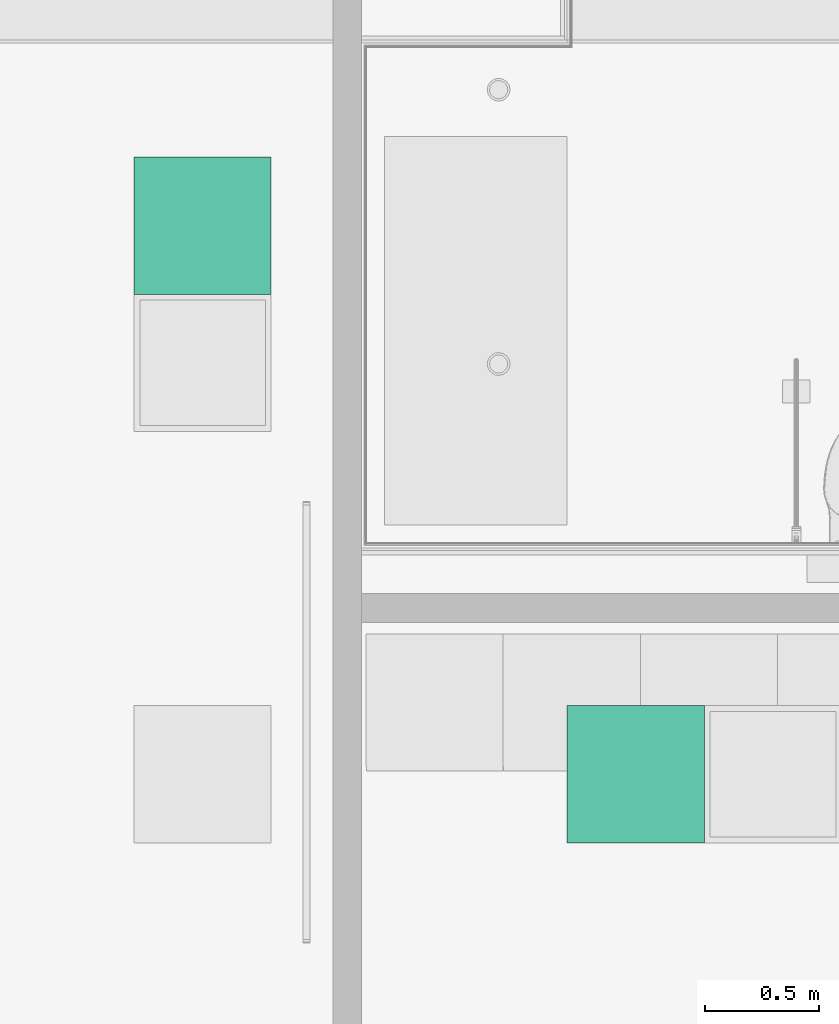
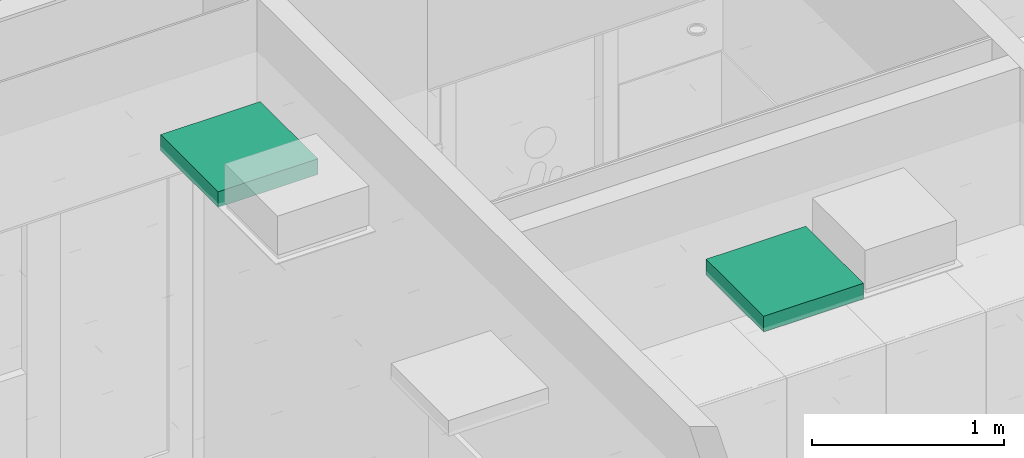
# One storey, part 202 of 347: 2 flow terminals.
"""IFC2X3 building model written with IfcOpenShell, lengths in millimetres."""

import ifcopenshell
import ifcopenshell.guid

model = None  # the IFC model being written
_history = None  # IfcOwnerHistory: only IFC2X3 demands one
_inside = {}  # id of a spatial element -> (the spatial element, [elements in it])
_under = {}  # id of a project, library or spatial element -> (it, [spatial elements below it])
_declared = {}  # id of a project -> (the project, [libraries it declares])
_typed = {}  # id of a type object -> (the type object, [elements of that type])
_made_of = {}  # id of a material, layer set ... -> (it, [elements and type objects made of it])


def new_model(schema):
    """Start an empty IFC model of exactly this schema.

    Asked for "IFC4X3", IfcOpenShell would pick the latest addendum, in which some entities
    have other attributes; the version numbers below select the first issue.
    IFC2X3 requires an IfcOwnerHistory on every rooted entity: one is made here for all.
    """
    global model, _history
    if schema == "IFC4X3":
        model = ifcopenshell.file(schema_version=(4, 3, 0, 0))
    else:
        model = ifcopenshell.file(schema=schema)
    _inside.clear()
    _under.clear()
    _declared.clear()
    _typed.clear()
    _made_of.clear()
    _history = None
    if model.schema == "IFC2X3":
        org = make("IfcOrganization", Name="unknown")
        user = make(
            "IfcPersonAndOrganization",
            ThePerson=make("IfcPerson", FamilyName="unknown"),
            TheOrganization=org,
        )
        app = make(
            "IfcApplication",
            ApplicationDeveloper=org,
            Version="unknown",
            ApplicationFullName="unknown",
            ApplicationIdentifier="unknown",
        )
        _history = make(
            "IfcOwnerHistory",
            OwningUser=user,
            OwningApplication=app,
            ChangeAction="ADDED",
            CreationDate=0,
        )
    return model


def make(cls, **values):
    """One entity of the class cls with the attributes given. An attribute that is None is left unset."""
    return model.create_entity(
        cls, **{name: value for name, value in values.items() if value is not None}
    )


def entity(cls, *values):
    """Any entity or typed value of the class cls, its attributes in the order of the schema. None: left unset."""
    e = model.create_entity(cls)
    for i, value in enumerate(values):
        if value is not None:
            e[i] = value
    return e


def rooted(cls, **values):
    """An entity with a GlobalId (a new one), such as an element, a storey or a relation."""
    return make(cls, GlobalId=ifcopenshell.guid.new(), OwnerHistory=_history, **values)


def si_unit(unit_type, name, prefix=None):
    """IfcSIUnit, for example si_unit("LENGTHUNIT", "METRE", prefix="MILLI")."""
    return make("IfcSIUnit", UnitType=unit_type, Prefix=prefix, Name=name)


def converted_unit(unit_type, name, factor, base, dimensions=None, offset=None):
    """IfcConversionBasedUnit, such as the inch: factor (a typed value) times the base unit."""
    return make(
        "IfcConversionBasedUnit"
        if offset is None
        else "IfcConversionBasedUnitWithOffset",
        ConversionOffset=offset,
        Dimensions=None
        if dimensions is None
        else entity("IfcDimensionalExponents", *dimensions),
        UnitType=unit_type,
        Name=name,
        ConversionFactor=make(
            "IfcMeasureWithUnit", ValueComponent=factor, UnitComponent=base
        ),
    )


def derived_unit(unit_type, elements):
    """IfcDerivedUnit: a product of units, each with its exponent."""
    return make(
        "IfcDerivedUnit",
        Elements=[
            make("IfcDerivedUnitElement", Unit=unit, Exponent=power)
            for unit, power in elements
        ],
        UnitType=unit_type,
    )


def money_unit(currency):
    """IfcMonetaryUnit."""
    return make("IfcMonetaryUnit", Currency=currency)


def assignment(units):
    """IfcUnitAssignment: the units of a project."""
    return None if units is None else make("IfcUnitAssignment", Units=units)


def point(xyz):
    """IfcCartesianPoint."""
    return None if xyz is None else make("IfcCartesianPoint", Coordinates=xyz)


def direction(xyz):
    """IfcDirection."""
    return None if xyz is None else make("IfcDirection", DirectionRatios=xyz)


def frame(location, z_axis=None, x_axis=None):
    """IfcAxis2Placement3D, a coordinate frame: its origin and axes. An axis left out is left unset."""
    return make(
        "IfcAxis2Placement3D",
        Location=point(location),
        Axis=direction(z_axis),
        RefDirection=direction(x_axis),
    )


def origin_with_axes():
    """The frame at (0, 0, 0) with the z axis (0, 0, 1) and the x axis (1, 0, 0) written out."""
    return frame((0.0, 0.0, 0.0), z_axis=(0.0, 0.0, 1.0), x_axis=(1.0, 0.0, 0.0))


def place(relative_to, where):
    """IfcLocalPlacement: puts the frame where relative to a parent placement (None: the world)."""
    return make(
        "IfcLocalPlacement", PlacementRelTo=relative_to, RelativePlacement=where
    )


def context(
    kind, dimensions, precision=None, world=None, true_north=None, identifier=None
):
    """IfcGeometricRepresentationContext, for example the 3D "Model" context."""
    return make(
        "IfcGeometricRepresentationContext",
        ContextIdentifier=identifier,
        ContextType=kind,
        CoordinateSpaceDimension=dimensions,
        Precision=precision,
        WorldCoordinateSystem=world,
        TrueNorth=true_north,
    )


def subcontext(parent, identifier, kind, view, scale=None):
    """IfcGeometricRepresentationSubContext, for example "Body" below "Model"."""
    return make(
        "IfcGeometricRepresentationSubContext",
        ContextIdentifier=identifier,
        ContextType=kind,
        ParentContext=parent,
        TargetScale=scale,
        TargetView=view,
    )


def project(units=None, contexts=None):
    """IfcProject with its units and contexts."""
    return rooted(
        "IfcProject",
        Name="project",
        RepresentationContexts=contexts,
        UnitsInContext=assignment(units),
    )


def spatial(cls, under=None, at=None, **own):
    """A site, building, storey or space (cls), placed at a placement, below another one or the project."""
    s = rooted(cls, ObjectPlacement=at, **own)
    if under is not None:
        _under.setdefault(under.id(), (under, []))[1].append(s)
    return s


def faces_of(points, faces, orient=None, outer=None):
    """IfcFace entities. A face is a list of loops; a loop is a list of indices into points, from 0.

    orient and outer hold one flag for each loop. By default every Orientation is true, the
    first loop of a face is its IfcFaceOuterBound and the others are IfcFaceBound.
    """
    made = []
    for i, loops in enumerate(faces):
        bounds = []
        for j, loop in enumerate(loops):
            is_outer = j == 0 if outer is None else outer[i][j]
            bounds.append(
                make(
                    "IfcFaceOuterBound" if is_outer else "IfcFaceBound",
                    Bound=make("IfcPolyLoop", Polygon=[points[k] for k in loop]),
                    Orientation=True if orient is None else orient[i][j],
                )
            )
        made.append(make("IfcFace", Bounds=bounds))
    return made


def open_shell(faces, orient=None, outer=None):
    """The faces of one IfcOpenShell. surface_model builds it on its shared points."""
    return ("IfcOpenShell", faces, orient, outer)


def faceted_brep(points, faces, orient=None, outer=None, voids=None):
    """IfcFacetedBrep: a solid bounded by flat faces; with voids (closed shells), ...WithVoids."""
    shared = [point(p) for p in points]
    hull = make("IfcClosedShell", CfsFaces=faces_of(shared, faces, orient, outer))
    if voids is None:
        return make("IfcFacetedBrep", Outer=hull)
    return make(
        "IfcFacetedBrepWithVoids",
        Outer=hull,
        Voids=[
            make(cls, CfsFaces=faces_of(shared, fs, o, b)) for cls, fs, o, b in voids
        ],
    )


def surface_model(cls, points, shells):
    """IfcFaceBasedSurfaceModel or IfcShellBasedSurfaceModel (cls): surfaces that need not close."""
    shared = [point(p) for p in points]
    made = [make(c, CfsFaces=faces_of(shared, fs, o, b)) for c, fs, o, b in shells]
    if cls == "IfcFaceBasedSurfaceModel":
        return make(cls, FbsmFaces=made)
    return make(cls, SbsmBoundary=made)


def shape(context_of_items, identifier, shape_type, items):
    """IfcShapeRepresentation: the items that make up one representation, for example the "Body"."""
    return make(
        "IfcShapeRepresentation",
        ContextOfItems=context_of_items,
        RepresentationIdentifier=identifier,
        RepresentationType=shape_type,
        Items=items,
    )


def source(mapping_origin, context_of_items, identifier, shape_type, items):
    """IfcRepresentationMap: a shape defined once, which mapped items show again and again."""
    return make(
        "IfcRepresentationMap",
        MappingOrigin=mapping_origin,
        MappedRepresentation=shape(context_of_items, identifier, shape_type, items),
    )


def transform(
    local_origin,
    x_axis=None,
    y_axis=None,
    z_axis=None,
    scale=None,
    scale2=None,
    scale3=None,
    uniform=True,
):
    """IfcCartesianTransformationOperator3D, or its non-uniform kind. x_axis, y_axis, z_axis: its Axis1, 2, 3."""
    if uniform:
        return make(
            "IfcCartesianTransformationOperator3D",
            Axis1=direction(x_axis),
            Axis2=direction(y_axis),
            LocalOrigin=point(local_origin),
            Scale=scale,
            Axis3=direction(z_axis),
        )
    return make(
        "IfcCartesianTransformationOperator3DnonUniform",
        Axis1=direction(x_axis),
        Axis2=direction(y_axis),
        LocalOrigin=point(local_origin),
        Scale=scale,
        Axis3=direction(z_axis),
        Scale2=scale2,
        Scale3=scale3,
    )


def mapped(mapping_source, mapping_target):
    """IfcMappedItem: shows the shape of a source again, moved by a transform."""
    return make(
        "IfcMappedItem", MappingSource=mapping_source, MappingTarget=mapping_target
    )


def made_of(thing, what):
    """Note that an element or type object is made of a material, layer set ...; save() writes the relation."""
    if what is not None:
        _made_of.setdefault(what.id(), (what, []))[1].append(thing)
    return thing


def type_object(cls, material=None, **own):
    """A type object (cls), such as IfcWallType, which elements share."""
    return made_of(rooted(cls, **own), material)


def type_shapes(of_type, sources):
    """Give a type object the sources (RepresentationMaps) that its elements show as mapped items."""
    of_type.RepresentationMaps = sources


def element(
    cls,
    number,
    at=None,
    inside=None,
    cuts=None,
    type_object=None,
    material=None,
    context=None,
    identifier="Body",
    shape_type=None,
    held_by="IfcProductDefinitionShape",
    body=None,
    shapes=None,
    **own,
):
    """One element of the class cls, such as IfcWall. Its Tag is "e" and its number.

    at: its placement. inside: the storey or other place that contains it. cuts: it is an
    opening in that element (IfcRelVoidsElement). A single representation is given by context,
    identifier, shape_type and body (its items); several are given by shapes. held_by: the class
    of the entity that holds the representations. save() writes the other relations.
    """
    e = rooted(cls, Tag="e%d" % number, ObjectPlacement=at, **own)
    if body is not None:
        shapes = [shape(context, identifier, shape_type, body)]
    if shapes is not None:
        e.Representation = make(held_by, Representations=shapes)
    if inside is not None:
        _inside.setdefault(inside.id(), (inside, []))[1].append(e)
    if cuts is not None:
        rooted(
            "IfcRelVoidsElement", RelatingBuildingElement=cuts, RelatedOpeningElement=e
        )
    if type_object is not None:
        _typed.setdefault(type_object.id(), (type_object, []))[1].append(e)
    return made_of(e, material)


def aggregate(whole, parts):
    """IfcRelAggregates: a whole, such as a stair, and the parts it consists of."""
    return rooted("IfcRelAggregates", RelatingObject=whole, RelatedObjects=parts)


def save(model, path):
    """Write the relations noted so far, then the file.

    IfcRelAggregates (storeys below a building ...), IfcRelContainedInSpatialStructure (elements
    in a storey), IfcRelDefinesByType, IfcRelAssociatesMaterial and IfcRelDeclares: one each for
    every whole, place, type object, material and project.
    """
    for whole, parts in _under.values():
        aggregate(whole, parts)
    for where, things in _inside.values():
        rooted(
            "IfcRelContainedInSpatialStructure",
            RelatedElements=things,
            RelatingStructure=where,
        )
    for kind, things in _typed.values():
        rooted("IfcRelDefinesByType", RelatedObjects=things, RelatingType=kind)
    for what, things in _made_of.values():
        rooted("IfcRelAssociatesMaterial", RelatedObjects=things, RelatingMaterial=what)
    for by, libraries in _declared.values():
        rooted("IfcRelDeclares", RelatingContext=by, RelatedDefinitions=libraries)
    model.write(path)


model = new_model("IFC2X3")

# Units and contexts
model_context = context("Model", 3, precision=0.01, world=origin_with_axes(), true_north=direction((0.0, 1.0)))
plan_context = context("Plan", 3, precision=0.01, world=origin_with_axes(), true_north=direction((0.0, 1.0)))
body_context = subcontext(model_context, "Body", "Model", "MODEL_VIEW")
ifc_project = project(units=[si_unit("LENGTHUNIT", "METRE", prefix="MILLI"), si_unit("AREAUNIT", "SQUARE_METRE"), si_unit("VOLUMEUNIT", "CUBIC_METRE"), converted_unit("PLANEANGLEUNIT", "DEGREE", entity("IfcPlaneAngleMeasure", 0.0174532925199), si_unit("PLANEANGLEUNIT", "RADIAN"), dimensions=[0, 0, 0, 0, 0, 0, 0]), money_unit("EUR"), converted_unit("TIMEUNIT", "Year", entity("IfcTimeMeasure", 31556926.0), si_unit("TIMEUNIT", "SECOND"), dimensions=[0, 0, 1, 0, 0, 0, 0]), si_unit("MASSUNIT", "GRAM", prefix="KILO"), si_unit("THERMODYNAMICTEMPERATUREUNIT", "DEGREE_CELSIUS"), si_unit("LUMINOUSINTENSITYUNIT", "LUMEN"), si_unit("ENERGYUNIT", "JOULE", prefix="MEGA"), derived_unit("THERMALCONDUCTANCEUNIT", [(si_unit("POWERUNIT", "WATT"), 1), (si_unit("LENGTHUNIT", "METRE"), -1), (si_unit("THERMODYNAMICTEMPERATUREUNIT", "KELVIN"), -1)]), derived_unit("SPECIFICHEATCAPACITYUNIT", [(si_unit("ENERGYUNIT", "JOULE"), 1), (si_unit("MASSUNIT", "GRAM", prefix="KILO"), -1), (si_unit("THERMODYNAMICTEMPERATUREUNIT", "KELVIN"), -1)]), derived_unit("MASSDENSITYUNIT", [(si_unit("MASSUNIT", "GRAM", prefix="KILO"), 1), (si_unit("VOLUMEUNIT", "CUBIC_METRE"), -1)])], contexts=[model_context, plan_context])

# Site, building, storey
site_placement = place(None, origin_with_axes())
site = spatial("IfcSite", under=ifc_project, at=site_placement, Name="Site", CompositionType="ELEMENT")
building_placement = place(site_placement, origin_with_axes())
building = spatial("IfcBuilding", under=site, at=building_placement, Name="Naam gebouw", CompositionType="ELEMENT")
storey_placement = place(building_placement, origin_with_axes())
storey = spatial("IfcBuildingStorey", under=building, at=storey_placement, Name="begane grond", CompositionType="ELEMENT", Elevation=0.0)

# Flow terminals
lamp_type = type_object("IfcLampType", Name="TL plafond 25", PredefinedType="NOTDEFINED")
shared_shape = source(origin_with_axes(), body_context, "Body", "SurfaceModel", [
    faceted_brep([(0.0, 0.0, -100.0), (600.0, 0.0, -100.0), (600.0, 0.0, 0.0), (0.0, 0.0, 0.0), (0.0, 600.0, -100.0), (600.0, 600.0, -100.0), (40.0, 40.0, -100.0), (560.0, 40.0, -100.0), (560.0, 560.0, -100.0), (40.0, 560.0, -100.0), (600.0, 600.0, 0.0), (0.0, 600.0, 0.0), (40.0, 40.0, 0.0), (40.0, 560.0, 0.0), (560.0, 560.0, 0.0), (560.0, 40.0, 0.0)], [[[0, 1, 2, 3]], [[0, 4, 5, 1], [6, 7, 8, 9]], [[1, 5, 10, 2]], [[3, 2, 10, 11], [12, 13, 14, 15]], [[4, 0, 3, 11]], [[5, 4, 11, 10]], [[7, 6, 12, 15]], [[8, 7, 15, 14]], [[9, 8, 14, 13]], [[6, 9, 13, 12]]]),
    faceted_brep([(40.0, 40.0, -16.3333333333), (560.0, 40.0, -16.3333333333), (560.0, 40.0, 0.0), (40.0, 40.0, 0.0), (40.0, 560.0, -16.3333333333), (560.0, 560.0, -16.3333333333), (560.0, 560.0, 0.0), (40.0, 560.0, 0.0)], [[[0, 1, 2, 3]], [[0, 4, 5, 1]], [[1, 5, 6, 2]], [[3, 2, 6, 7]], [[4, 0, 3, 7]], [[5, 4, 7, 6]]]),
    surface_model("IfcShellBasedSurfaceModel", [(559.0, 41.0, -100.0), (40.0, 41.0, -100.0), (40.0, 559.0, -100.0), (559.0, 559.0, -100.0)], [open_shell([[[0, 1, 2, 3]]])]),
    faceted_brep([(40.0, 40.0, -100.0), (560.0, 40.0, -100.0), (560.0, 40.0, -60.0), (40.0, 40.0, -60.0), (40.0, 560.0, -100.0), (560.0, 560.0, -100.0), (41.0, 41.0, -100.0), (559.0, 41.0, -100.0), (559.0, 559.0, -100.0), (41.0, 559.0, -100.0), (560.0, 560.0, -60.0), (40.0, 560.0, -60.0), (41.0, 41.0, -60.0), (41.0, 559.0, -60.0), (559.0, 559.0, -60.0), (559.0, 41.0, -60.0)], [[[0, 1, 2, 3]], [[0, 4, 5, 1], [6, 7, 8, 9]], [[1, 5, 10, 2]], [[3, 2, 10, 11], [12, 13, 14, 15]], [[4, 0, 3, 11]], [[5, 4, 11, 10]], [[7, 6, 12, 15]], [[8, 7, 15, 14]], [[9, 8, 14, 13]], [[6, 9, 13, 12]]]),
    faceted_brep([(40.0, 144.0, -48.3333333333), (40.0, 149.740251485, -47.191526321), (560.0, 149.740251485, -47.191526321), (560.0, 144.0, -48.3333333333), (40.0, 138.259748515, -47.191526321), (40.0, 133.393398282, -43.9399350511), (40.0, 130.141807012, -39.0735848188), (40.0, 129.0, -33.3333333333), (40.0, 130.141807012, -27.5930818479), (40.0, 133.393398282, -22.7267316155), (40.0, 138.259748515, -19.4751403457), (40.0, 144.0, -18.3333333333), (40.0, 149.740251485, -19.4751403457), (40.0, 154.606601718, -22.7267316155), (40.0, 157.858192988, -27.5930818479), (40.0, 159.0, -33.3333333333), (40.0, 157.858192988, -39.0735848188), (40.0, 154.606601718, -43.9399350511), (40.0, 144.0, -46.3333333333), (40.0, 148.974884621, -45.343767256), (40.0, 153.192388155, -42.5257214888), (40.0, 156.010433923, -38.3082179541), (40.0, 157.0, -33.3333333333), (40.0, 156.010433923, -28.3584487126), (40.0, 153.192388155, -24.1409451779), (40.0, 148.974884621, -21.3228994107), (40.0, 144.0, -20.3333333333), (40.0, 139.025115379, -21.3228994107), (40.0, 134.807611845, -24.1409451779), (40.0, 131.989566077, -28.3584487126), (40.0, 131.0, -33.3333333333), (40.0, 131.989566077, -38.3082179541), (40.0, 134.807611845, -42.5257214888), (40.0, 139.025115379, -45.343767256), (560.0, 154.606601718, -43.9399350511), (560.0, 157.858192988, -39.0735848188), (560.0, 159.0, -33.3333333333), (560.0, 157.858192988, -27.5930818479), (560.0, 154.606601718, -22.7267316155), (560.0, 149.740251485, -19.4751403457), (560.0, 144.0, -18.3333333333), (560.0, 138.259748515, -19.4751403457), (560.0, 133.393398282, -22.7267316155), (560.0, 130.141807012, -27.5930818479), (560.0, 129.0, -33.3333333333), (560.0, 130.141807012, -39.0735848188), (560.0, 133.393398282, -43.9399350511), (560.0, 138.259748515, -47.191526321), (560.0, 144.0, -46.3333333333), (560.0, 139.025115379, -45.343767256), (560.0, 134.807611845, -42.5257214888), (560.0, 131.989566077, -38.3082179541), (560.0, 131.0, -33.3333333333), (560.0, 131.989566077, -28.3584487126), (560.0, 134.807611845, -24.1409451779), (560.0, 139.025115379, -21.3228994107), (560.0, 144.0, -20.3333333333), (560.0, 148.974884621, -21.3228994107), (560.0, 153.192388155, -24.1409451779), (560.0, 156.010433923, -28.3584487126), (560.0, 157.0, -33.3333333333), (560.0, 156.010433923, -38.3082179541), (560.0, 153.192388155, -42.5257214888), (560.0, 148.974884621, -45.343767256)], [[[0, 1, 2, 3]], [[0, 4, 5, 6, 7, 8, 9, 10, 11, 12, 13, 14, 15, 16, 17, 1], [18, 19, 20, 21, 22, 23, 24, 25, 26, 27, 28, 29, 30, 31, 32, 33]], [[1, 17, 34, 2]], [[3, 2, 34, 35, 36, 37, 38, 39, 40, 41, 42, 43, 44, 45, 46, 47], [48, 49, 50, 51, 52, 53, 54, 55, 56, 57, 58, 59, 60, 61, 62, 63]], [[4, 0, 3, 47]], [[5, 4, 47, 46]], [[6, 5, 46, 45]], [[7, 6, 45, 44]], [[8, 7, 44, 43]], [[9, 8, 43, 42]], [[10, 9, 42, 41]], [[11, 10, 41, 40]], [[12, 11, 40, 39]], [[13, 12, 39, 38]], [[14, 13, 38, 37]], [[15, 14, 37, 36]], [[16, 15, 36, 35]], [[17, 16, 35, 34]], [[19, 18, 48, 63]], [[20, 19, 63, 62]], [[21, 20, 62, 61]], [[22, 21, 61, 60]], [[23, 22, 60, 59]], [[24, 23, 59, 58]], [[25, 24, 58, 57]], [[26, 25, 57, 56]], [[27, 26, 56, 55]], [[28, 27, 55, 54]], [[29, 28, 54, 53]], [[30, 29, 53, 52]], [[31, 30, 52, 51]], [[32, 31, 51, 50]], [[33, 32, 50, 49]], [[18, 33, 49, 48]]]),
    faceted_brep([(40.0, 248.0, -48.3333333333), (40.0, 253.740251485, -47.191526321), (560.0, 253.740251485, -47.191526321), (560.0, 248.0, -48.3333333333), (40.0, 242.259748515, -47.191526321), (40.0, 237.393398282, -43.9399350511), (40.0, 234.141807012, -39.0735848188), (40.0, 233.0, -33.3333333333), (40.0, 234.141807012, -27.5930818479), (40.0, 237.393398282, -22.7267316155), (40.0, 242.259748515, -19.4751403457), (40.0, 248.0, -18.3333333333), (40.0, 253.740251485, -19.4751403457), (40.0, 258.606601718, -22.7267316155), (40.0, 261.858192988, -27.5930818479), (40.0, 263.0, -33.3333333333), (40.0, 261.858192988, -39.0735848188), (40.0, 258.606601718, -43.9399350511), (40.0, 248.0, -46.3333333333), (40.0, 252.974884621, -45.343767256), (40.0, 257.192388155, -42.5257214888), (40.0, 260.010433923, -38.3082179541), (40.0, 261.0, -33.3333333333), (40.0, 260.010433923, -28.3584487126), (40.0, 257.192388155, -24.1409451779), (40.0, 252.974884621, -21.3228994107), (40.0, 248.0, -20.3333333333), (40.0, 243.025115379, -21.3228994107), (40.0, 238.807611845, -24.1409451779), (40.0, 235.989566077, -28.3584487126), (40.0, 235.0, -33.3333333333), (40.0, 235.989566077, -38.3082179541), (40.0, 238.807611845, -42.5257214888), (40.0, 243.025115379, -45.343767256), (560.0, 258.606601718, -43.9399350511), (560.0, 261.858192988, -39.0735848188), (560.0, 263.0, -33.3333333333), (560.0, 261.858192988, -27.5930818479), (560.0, 258.606601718, -22.7267316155), (560.0, 253.740251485, -19.4751403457), (560.0, 248.0, -18.3333333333), (560.0, 242.259748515, -19.4751403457), (560.0, 237.393398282, -22.7267316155), (560.0, 234.141807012, -27.5930818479), (560.0, 233.0, -33.3333333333), (560.0, 234.141807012, -39.0735848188), (560.0, 237.393398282, -43.9399350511), (560.0, 242.259748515, -47.191526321), (560.0, 248.0, -46.3333333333), (560.0, 243.025115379, -45.343767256), (560.0, 238.807611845, -42.5257214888), (560.0, 235.989566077, -38.3082179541), (560.0, 235.0, -33.3333333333), (560.0, 235.989566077, -28.3584487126), (560.0, 238.807611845, -24.1409451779), (560.0, 243.025115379, -21.3228994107), (560.0, 248.0, -20.3333333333), (560.0, 252.974884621, -21.3228994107), (560.0, 257.192388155, -24.1409451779), (560.0, 260.010433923, -28.3584487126), (560.0, 261.0, -33.3333333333), (560.0, 260.010433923, -38.3082179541), (560.0, 257.192388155, -42.5257214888), (560.0, 252.974884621, -45.343767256)], [[[0, 1, 2, 3]], [[0, 4, 5, 6, 7, 8, 9, 10, 11, 12, 13, 14, 15, 16, 17, 1], [18, 19, 20, 21, 22, 23, 24, 25, 26, 27, 28, 29, 30, 31, 32, 33]], [[1, 17, 34, 2]], [[3, 2, 34, 35, 36, 37, 38, 39, 40, 41, 42, 43, 44, 45, 46, 47], [48, 49, 50, 51, 52, 53, 54, 55, 56, 57, 58, 59, 60, 61, 62, 63]], [[4, 0, 3, 47]], [[5, 4, 47, 46]], [[6, 5, 46, 45]], [[7, 6, 45, 44]], [[8, 7, 44, 43]], [[9, 8, 43, 42]], [[10, 9, 42, 41]], [[11, 10, 41, 40]], [[12, 11, 40, 39]], [[13, 12, 39, 38]], [[14, 13, 38, 37]], [[15, 14, 37, 36]], [[16, 15, 36, 35]], [[17, 16, 35, 34]], [[19, 18, 48, 63]], [[20, 19, 63, 62]], [[21, 20, 62, 61]], [[22, 21, 61, 60]], [[23, 22, 60, 59]], [[24, 23, 59, 58]], [[25, 24, 58, 57]], [[26, 25, 57, 56]], [[27, 26, 56, 55]], [[28, 27, 55, 54]], [[29, 28, 54, 53]], [[30, 29, 53, 52]], [[31, 30, 52, 51]], [[32, 31, 51, 50]], [[33, 32, 50, 49]], [[18, 33, 49, 48]]]),
    faceted_brep([(40.0, 352.0, -48.3333333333), (40.0, 357.740251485, -47.191526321), (560.0, 357.740251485, -47.191526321), (560.0, 352.0, -48.3333333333), (40.0, 346.259748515, -47.191526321), (40.0, 341.393398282, -43.9399350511), (40.0, 338.141807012, -39.0735848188), (40.0, 337.0, -33.3333333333), (40.0, 338.141807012, -27.5930818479), (40.0, 341.393398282, -22.7267316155), (40.0, 346.259748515, -19.4751403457), (40.0, 352.0, -18.3333333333), (40.0, 357.740251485, -19.4751403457), (40.0, 362.606601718, -22.7267316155), (40.0, 365.858192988, -27.5930818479), (40.0, 367.0, -33.3333333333), (40.0, 365.858192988, -39.0735848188), (40.0, 362.606601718, -43.9399350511), (40.0, 352.0, -46.3333333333), (40.0, 356.974884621, -45.343767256), (40.0, 361.192388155, -42.5257214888), (40.0, 364.010433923, -38.3082179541), (40.0, 365.0, -33.3333333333), (40.0, 364.010433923, -28.3584487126), (40.0, 361.192388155, -24.1409451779), (40.0, 356.974884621, -21.3228994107), (40.0, 352.0, -20.3333333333), (40.0, 347.025115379, -21.3228994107), (40.0, 342.807611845, -24.1409451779), (40.0, 339.989566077, -28.3584487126), (40.0, 339.0, -33.3333333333), (40.0, 339.989566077, -38.3082179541), (40.0, 342.807611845, -42.5257214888), (40.0, 347.025115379, -45.343767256), (560.0, 362.606601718, -43.9399350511), (560.0, 365.858192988, -39.0735848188), (560.0, 367.0, -33.3333333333), (560.0, 365.858192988, -27.5930818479), (560.0, 362.606601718, -22.7267316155), (560.0, 357.740251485, -19.4751403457), (560.0, 352.0, -18.3333333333), (560.0, 346.259748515, -19.4751403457), (560.0, 341.393398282, -22.7267316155), (560.0, 338.141807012, -27.5930818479), (560.0, 337.0, -33.3333333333), (560.0, 338.141807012, -39.0735848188), (560.0, 341.393398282, -43.9399350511), (560.0, 346.259748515, -47.191526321), (560.0, 352.0, -46.3333333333), (560.0, 347.025115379, -45.343767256), (560.0, 342.807611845, -42.5257214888), (560.0, 339.989566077, -38.3082179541), (560.0, 339.0, -33.3333333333), (560.0, 339.989566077, -28.3584487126), (560.0, 342.807611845, -24.1409451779), (560.0, 347.025115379, -21.3228994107), (560.0, 352.0, -20.3333333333), (560.0, 356.974884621, -21.3228994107), (560.0, 361.192388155, -24.1409451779), (560.0, 364.010433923, -28.3584487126), (560.0, 365.0, -33.3333333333), (560.0, 364.010433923, -38.3082179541), (560.0, 361.192388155, -42.5257214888), (560.0, 356.974884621, -45.343767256)], [[[0, 1, 2, 3]], [[0, 4, 5, 6, 7, 8, 9, 10, 11, 12, 13, 14, 15, 16, 17, 1], [18, 19, 20, 21, 22, 23, 24, 25, 26, 27, 28, 29, 30, 31, 32, 33]], [[1, 17, 34, 2]], [[3, 2, 34, 35, 36, 37, 38, 39, 40, 41, 42, 43, 44, 45, 46, 47], [48, 49, 50, 51, 52, 53, 54, 55, 56, 57, 58, 59, 60, 61, 62, 63]], [[4, 0, 3, 47]], [[5, 4, 47, 46]], [[6, 5, 46, 45]], [[7, 6, 45, 44]], [[8, 7, 44, 43]], [[9, 8, 43, 42]], [[10, 9, 42, 41]], [[11, 10, 41, 40]], [[12, 11, 40, 39]], [[13, 12, 39, 38]], [[14, 13, 38, 37]], [[15, 14, 37, 36]], [[16, 15, 36, 35]], [[17, 16, 35, 34]], [[19, 18, 48, 63]], [[20, 19, 63, 62]], [[21, 20, 62, 61]], [[22, 21, 61, 60]], [[23, 22, 60, 59]], [[24, 23, 59, 58]], [[25, 24, 58, 57]], [[26, 25, 57, 56]], [[27, 26, 56, 55]], [[28, 27, 55, 54]], [[29, 28, 54, 53]], [[30, 29, 53, 52]], [[31, 30, 52, 51]], [[32, 31, 51, 50]], [[33, 32, 50, 49]], [[18, 33, 49, 48]]]),
    faceted_brep([(40.0, 456.0, -48.3333333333), (40.0, 461.740251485, -47.191526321), (560.0, 461.740251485, -47.191526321), (560.0, 456.0, -48.3333333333), (40.0, 450.259748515, -47.191526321), (40.0, 445.393398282, -43.9399350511), (40.0, 442.141807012, -39.0735848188), (40.0, 441.0, -33.3333333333), (40.0, 442.141807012, -27.5930818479), (40.0, 445.393398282, -22.7267316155), (40.0, 450.259748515, -19.4751403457), (40.0, 456.0, -18.3333333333), (40.0, 461.740251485, -19.4751403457), (40.0, 466.606601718, -22.7267316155), (40.0, 469.858192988, -27.5930818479), (40.0, 471.0, -33.3333333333), (40.0, 469.858192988, -39.0735848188), (40.0, 466.606601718, -43.9399350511), (40.0, 456.0, -46.3333333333), (40.0, 460.974884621, -45.343767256), (40.0, 465.192388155, -42.5257214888), (40.0, 468.010433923, -38.3082179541), (40.0, 469.0, -33.3333333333), (40.0, 468.010433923, -28.3584487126), (40.0, 465.192388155, -24.1409451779), (40.0, 460.974884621, -21.3228994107), (40.0, 456.0, -20.3333333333), (40.0, 451.025115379, -21.3228994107), (40.0, 446.807611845, -24.1409451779), (40.0, 443.989566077, -28.3584487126), (40.0, 443.0, -33.3333333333), (40.0, 443.989566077, -38.3082179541), (40.0, 446.807611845, -42.5257214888), (40.0, 451.025115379, -45.343767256), (560.0, 466.606601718, -43.9399350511), (560.0, 469.858192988, -39.0735848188), (560.0, 471.0, -33.3333333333), (560.0, 469.858192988, -27.5930818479), (560.0, 466.606601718, -22.7267316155), (560.0, 461.740251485, -19.4751403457), (560.0, 456.0, -18.3333333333), (560.0, 450.259748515, -19.4751403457), (560.0, 445.393398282, -22.7267316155), (560.0, 442.141807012, -27.5930818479), (560.0, 441.0, -33.3333333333), (560.0, 442.141807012, -39.0735848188), (560.0, 445.393398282, -43.9399350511), (560.0, 450.259748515, -47.191526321), (560.0, 456.0, -46.3333333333), (560.0, 451.025115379, -45.343767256), (560.0, 446.807611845, -42.5257214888), (560.0, 443.989566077, -38.3082179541), (560.0, 443.0, -33.3333333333), (560.0, 443.989566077, -28.3584487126), (560.0, 446.807611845, -24.1409451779), (560.0, 451.025115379, -21.3228994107), (560.0, 456.0, -20.3333333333), (560.0, 460.974884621, -21.3228994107), (560.0, 465.192388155, -24.1409451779), (560.0, 468.010433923, -28.3584487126), (560.0, 469.0, -33.3333333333), (560.0, 468.010433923, -38.3082179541), (560.0, 465.192388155, -42.5257214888), (560.0, 460.974884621, -45.343767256)], [[[0, 1, 2, 3]], [[0, 4, 5, 6, 7, 8, 9, 10, 11, 12, 13, 14, 15, 16, 17, 1], [18, 19, 20, 21, 22, 23, 24, 25, 26, 27, 28, 29, 30, 31, 32, 33]], [[1, 17, 34, 2]], [[3, 2, 34, 35, 36, 37, 38, 39, 40, 41, 42, 43, 44, 45, 46, 47], [48, 49, 50, 51, 52, 53, 54, 55, 56, 57, 58, 59, 60, 61, 62, 63]], [[4, 0, 3, 47]], [[5, 4, 47, 46]], [[6, 5, 46, 45]], [[7, 6, 45, 44]], [[8, 7, 44, 43]], [[9, 8, 43, 42]], [[10, 9, 42, 41]], [[11, 10, 41, 40]], [[12, 11, 40, 39]], [[13, 12, 39, 38]], [[14, 13, 38, 37]], [[15, 14, 37, 36]], [[16, 15, 36, 35]], [[17, 16, 35, 34]], [[19, 18, 48, 63]], [[20, 19, 63, 62]], [[21, 20, 62, 61]], [[22, 21, 61, 60]], [[23, 22, 60, 59]], [[24, 23, 59, 58]], [[25, 24, 58, 57]], [[26, 25, 57, 56]], [[27, 26, 56, 55]], [[28, 27, 55, 54]], [[29, 28, 54, 53]], [[30, 29, 53, 52]], [[31, 30, 52, 51]], [[32, 31, 51, 50]], [[33, 32, 50, 49]], [[18, 33, 49, 48]]]),
])
type_shapes(lamp_type, [shared_shape])
for number, where, z_axis, x_axis, name in (
    (1, (23305.0, 10399.999972, 3295.0), (0.0, 0.0, 1.0), (1.0, 0.0, 0.0), "63_Lamp-x"),
    (2, (25200.0, 7999.99997201, 3295.0), (0.0, 0.0, 1.0), (1.0, 0.0, 0.0), "63_Lamp-x"),
):
    element("IfcFlowTerminal", number, at=place(storey_placement, frame(where, z_axis=z_axis, x_axis=x_axis)), inside=storey, type_object=lamp_type, Name=name, ObjectType="Lamp", context=body_context, shape_type="MappedRepresentation", body=[
        mapped(shared_shape, transform((0.0, 0.0, 0.0))),
    ])

save(model, "model.ifc")
